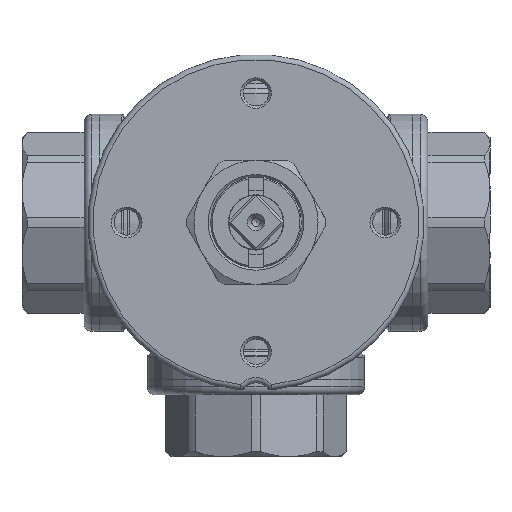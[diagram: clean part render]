
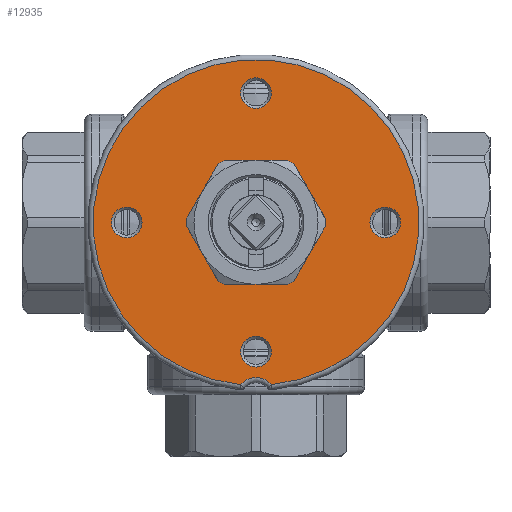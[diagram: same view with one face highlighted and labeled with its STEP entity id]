
A CAD part, top view. The second image highlights one B-rep face of the part: STEP entity #12935.
In plain terms, the highlighted planar face has unit normal (0, 0, 1) as drawn and (-1, 0, 0) by its records, which use the part's own axes.
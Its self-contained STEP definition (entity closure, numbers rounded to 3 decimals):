
#12851=CARTESIAN_POINT('',(-12.5,2.959,-25.0));
#12852=VERTEX_POINT('',#12851);
#12853=CARTESIAN_POINT('',(-12.5,0.,-25.0));
#12854=DIRECTION('',(-1.0,0.0,0.0));
#12855=DIRECTION('',(0.0,-1.0,0.0));
#12856=AXIS2_PLACEMENT_3D('',#12853,#12854,#12855);
#12857=CIRCLE('',#12856,2.959);
#12858=EDGE_CURVE('',#12852,#12852,#12857,.T.);
#12863=CARTESIAN_POINT('',(-12.5,16.25,0.0));
#12864=DIRECTION('',(-1.0,0.0,0.0));
#12865=DIRECTION('',(0.0,0.0,1.0));
#12866=AXIS2_PLACEMENT_3D('',#12863,#12864,#12865);
#12867=PLANE('',#12866);
#12868=CARTESIAN_POINT('',(-12.5,3.002,31.357));
#12869=VERTEX_POINT('',#12868);
#12870=CARTESIAN_POINT('',(-12.5,-3.002,31.357));
#12871=VERTEX_POINT('',#12870);
#12872=CARTESIAN_POINT('',(-12.5,0.,34.0));
#12873=DIRECTION('',(-1.0,0.0,0.0));
#12874=DIRECTION('',(0.0,0.0,-1.0));
#12875=AXIS2_PLACEMENT_3D('',#12872,#12873,#12874);
#12876=CIRCLE('',#12875,4.0);
#12877=EDGE_CURVE('',#12869,#12871,#12876,.T.);
#12878=ORIENTED_EDGE('',*,*,#12877,.F.);
#12879=CARTESIAN_POINT('',(-12.5,0.,0.0));
#12880=DIRECTION('',(1.0,0.0,0.0));
#12881=DIRECTION('',(0.0,-1.0,0.0));
#12882=AXIS2_PLACEMENT_3D('',#12879,#12880,#12881);
#12883=CIRCLE('',#12882,31.5);
#12884=EDGE_CURVE('',#12871,#12869,#12883,.T.);
#12885=ORIENTED_EDGE('',*,*,#12884,.F.);
#12886=EDGE_LOOP('',(#12878,#12885));
#12887=FACE_OUTER_BOUND('',#12886,.T.);
#12888=CARTESIAN_POINT('',(-12.5,27.958,0.));
#12889=VERTEX_POINT('',#12888);
#12890=CARTESIAN_POINT('',(-12.5,25.0,0.0));
#12891=DIRECTION('',(-1.0,0.0,0.0));
#12892=DIRECTION('',(0.0,-1.0,0.0));
#12893=AXIS2_PLACEMENT_3D('',#12890,#12891,#12892);
#12894=CIRCLE('',#12893,2.958);
#12895=EDGE_CURVE('',#12889,#12889,#12894,.T.);
#12896=ORIENTED_EDGE('',*,*,#12895,.F.);
#12897=EDGE_LOOP('',(#12896));
#12898=FACE_BOUND('',#12897,.T.);
#12899=CARTESIAN_POINT('',(-12.5,2.959,25.0));
#12900=VERTEX_POINT('',#12899);
#12901=CARTESIAN_POINT('',(-12.5,0.,25.0));
#12902=DIRECTION('',(-1.0,0.0,0.0));
#12903=DIRECTION('',(0.0,-1.0,0.0));
#12904=AXIS2_PLACEMENT_3D('',#12901,#12902,#12903);
#12905=CIRCLE('',#12904,2.959);
#12906=EDGE_CURVE('',#12900,#12900,#12905,.T.);
#12907=ORIENTED_EDGE('',*,*,#12906,.F.);
#12908=EDGE_LOOP('',(#12907));
#12909=FACE_BOUND('',#12908,.T.);
#12910=CARTESIAN_POINT('',(-12.5,-9.5,0.));
#12911=VERTEX_POINT('',#12910);
#12912=CARTESIAN_POINT('',(-12.5,0.,0.0));
#12913=DIRECTION('',(1.0,0.0,0.0));
#12914=DIRECTION('',(0.0,1.0,0.0));
#12915=AXIS2_PLACEMENT_3D('',#12912,#12913,#12914);
#12916=CIRCLE('',#12915,9.5);
#12917=EDGE_CURVE('',#12911,#12911,#12916,.T.);
#12918=ORIENTED_EDGE('',*,*,#12917,.T.);
#12919=EDGE_LOOP('',(#12918));
#12920=FACE_BOUND('',#12919,.T.);
#12921=CARTESIAN_POINT('',(-12.5,-22.042,0.));
#12922=VERTEX_POINT('',#12921);
#12923=CARTESIAN_POINT('',(-12.5,-25.0,0.0));
#12924=DIRECTION('',(-1.0,0.0,0.0));
#12925=DIRECTION('',(0.0,-1.0,0.0));
#12926=AXIS2_PLACEMENT_3D('',#12923,#12924,#12925);
#12927=CIRCLE('',#12926,2.958);
#12928=EDGE_CURVE('',#12922,#12922,#12927,.T.);
#12929=ORIENTED_EDGE('',*,*,#12928,.F.);
#12930=EDGE_LOOP('',(#12929));
#12931=FACE_BOUND('',#12930,.T.);
#12932=ORIENTED_EDGE('',*,*,#12858,.F.);
#12933=EDGE_LOOP('',(#12932));
#12934=FACE_BOUND('',#12933,.T.);
#12935=ADVANCED_FACE('',(#12887,#12898,#12909,#12920,#12931,#12934),#12867,.T.);
